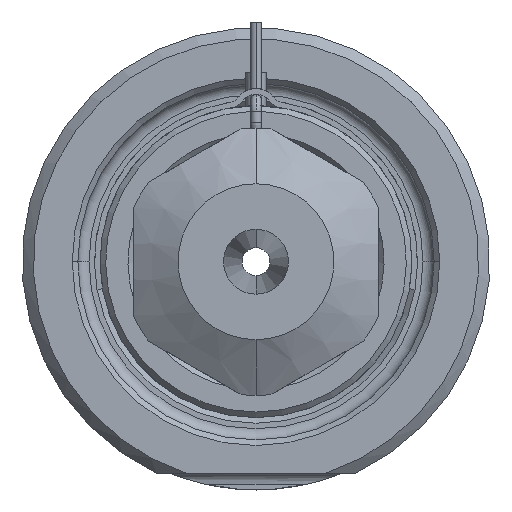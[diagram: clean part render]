
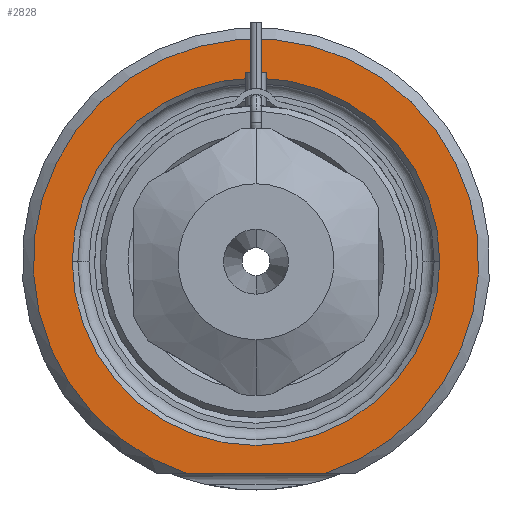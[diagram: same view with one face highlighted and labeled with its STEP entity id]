
A CAD part, front view. The second image highlights one B-rep face of the part: STEP entity #2828.
In plain terms, the highlighted planar face has unit normal (0, -1, 0).
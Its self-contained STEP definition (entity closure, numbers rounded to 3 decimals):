
#1=DIRECTION('',(1.,0.,0.));
#2=VECTOR('',#1,12.49);
#3=CARTESIAN_POINT('',(-6.245,0.,-19.));
#4=LINE('',#3,#2);
#5=CARTESIAN_POINT('',(0.,0.,0.));
#6=DIRECTION('',(0.,1.,0.));
#7=DIRECTION('',(-1.,0.,0.));
#8=AXIS2_PLACEMENT_3D('',#5,#6,#7);
#10=CARTESIAN_POINT('',(0.,0.,0.));
#11=DIRECTION('',(0.,1.,0.));
#12=DIRECTION('',(1.,0.,0.));
#13=AXIS2_PLACEMENT_3D('',#10,#11,#12);
#119=CARTESIAN_POINT('',(0.,0.,0.));
#120=DIRECTION('',(0.,-1.,0.));
#121=DIRECTION('',(0.312,0.,-0.95));
#122=AXIS2_PLACEMENT_3D('',#119,#120,#121);
#2355=CARTESIAN_POINT('',(-16.5,0.,0.));
#2356=CARTESIAN_POINT('',(16.5,0.,0.));
#2357=VERTEX_POINT('',#2355);
#2358=VERTEX_POINT('',#2356);
#2409=CARTESIAN_POINT('',(-6.245,0.,-19.));
#2410=CARTESIAN_POINT('',(6.245,0.,-19.));
#2411=VERTEX_POINT('',#2409);
#2412=VERTEX_POINT('',#2410);
#2811=CARTESIAN_POINT('',(0.,0.,0.));
#2812=DIRECTION('',(0.,-1.,0.));
#2813=DIRECTION('',(1.,0.,0.));
#2814=AXIS2_PLACEMENT_3D('',#2811,#2812,#2813);
#2815=PLANE('',#2814);
#2817=ORIENTED_EDGE('',*,*,#2816,.F.);
#2819=ORIENTED_EDGE('',*,*,#2818,.F.);
#2820=EDGE_LOOP('',(#2817,#2819));
#2821=FACE_OUTER_BOUND('',#2820,.F.);
#2823=ORIENTED_EDGE('',*,*,#2822,.F.);
#2825=ORIENTED_EDGE('',*,*,#2824,.F.);
#2826=EDGE_LOOP('',(#2823,#2825));
#2827=FACE_BOUND('',#2826,.F.);
#2828=ADVANCED_FACE('',(#2821,#2827),#2815,.T.);
#9=CIRCLE('',#8,16.5);
#14=CIRCLE('',#13,16.5);
#123=CIRCLE('',#122,20.);
#2816=EDGE_CURVE('',#2411,#2412,#4,.T.);
#2818=EDGE_CURVE('',#2412,#2411,#123,.T.);
#2822=EDGE_CURVE('',#2357,#2358,#9,.T.);
#2824=EDGE_CURVE('',#2358,#2357,#14,.T.);
